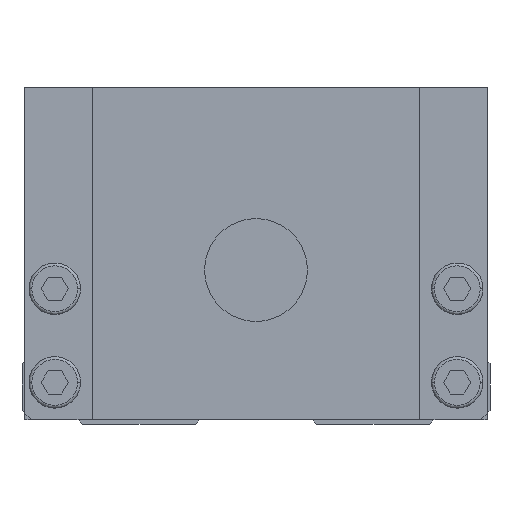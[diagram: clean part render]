
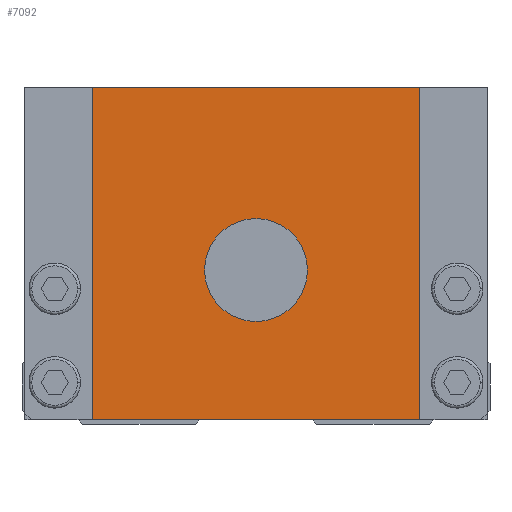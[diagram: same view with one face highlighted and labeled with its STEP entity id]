
A CAD part, front view. The second image highlights one B-rep face of the part: STEP entity #7092.
In plain terms, the highlighted planar face has unit normal (0, -1, 0).
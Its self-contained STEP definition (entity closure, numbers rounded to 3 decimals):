
#3978=VERTEX_POINT('',#10483);
#4380=EDGE_CURVE('',#6774,#3978,#10926,.T.);
#5794=EDGE_CURVE('',#9162,#3978,#12499,.T.);
#6168=EDGE_CURVE('',#9534,#6812,#12918,.T.);
#6774=VERTEX_POINT('',#13598);
#6812=VERTEX_POINT('',#13638);
#6984=VERTEX_POINT('',#13832);
#7024=EDGE_CURVE('',#6812,#9534,#13872,.T.);
#7092=ADVANCED_FACE('',(#13950,#13951),#13952,.F.);
#7696=EDGE_CURVE('',#6774,#6984,#14618,.T.);
#8132=EDGE_CURVE('',#6984,#9162,#15100,.T.);
#9162=VERTEX_POINT('',#16241);
#9534=VERTEX_POINT('',#16655);
#10483=CARTESIAN_POINT('',(-17.5,0.0,0.5));
#10926=LINE('',#18699,#18700);
#12499=LINE('',#20995,#20996);
#12918=CIRCLE('',#21578,5.5);
#13598=CARTESIAN_POINT('',(-17.5,0.0,36.0));
#13638=CARTESIAN_POINT('',(-5.5,0.0,16.5));
#13832=CARTESIAN_POINT('',(17.5,0.0,36.0));
#13872=CIRCLE('',#22881,5.5);
#13950=FACE_BOUND('',#22982,.T.);
#13951=FACE_OUTER_BOUND('',#22983,.T.);
#13952=PLANE('',#22984);
#14618=LINE('',#23891,#23892);
#15100=LINE('',#24581,#24582);
#16241=CARTESIAN_POINT('',(17.5,0.0,0.5));
#16655=CARTESIAN_POINT('',(5.5,0.0,16.5));
#18699=CARTESIAN_POINT('',(-17.5,0.0,18.25));
#18700=VECTOR('',#28514,1.0);
#20995=CARTESIAN_POINT('',(0.0,0.0,0.5));
#20996=VECTOR('',#30368,1.0);
#21578=AXIS2_PLACEMENT_3D('',#30876,#30877,#30878);
#22881=AXIS2_PLACEMENT_3D('',#31984,#31985,#31986);
#22982=EDGE_LOOP('',(#32089,#32090));
#22983=EDGE_LOOP('',(#32091,#32092,#32093,#32094));
#22984=AXIS2_PLACEMENT_3D('',#32095,#32096,#32097);
#23891=CARTESIAN_POINT('',(0.0,0.0,36.0));
#23892=VECTOR('',#32772,1.0);
#24581=CARTESIAN_POINT('',(17.5,0.0,18.25));
#24582=VECTOR('',#33338,1.0);
#28514=DIRECTION('',(0.0,0.0,-1.0));
#30368=DIRECTION('',(-1.0,0.0,0.0));
#30876=CARTESIAN_POINT('',(0.0,0.0,16.5));
#30877=DIRECTION('',(-0.0,1.0,0.0));
#30878=DIRECTION('',(1.0,0.0,0.0));
#31984=CARTESIAN_POINT('',(0.0,0.0,16.5));
#31985=DIRECTION('',(-0.0,1.0,0.0));
#31986=DIRECTION('',(1.0,0.0,0.0));
#32089=ORIENTED_EDGE('',*,*,#6168,.T.);
#32090=ORIENTED_EDGE('',*,*,#7024,.T.);
#32091=ORIENTED_EDGE('',*,*,#4380,.T.);
#32092=ORIENTED_EDGE('',*,*,#5794,.F.);
#32093=ORIENTED_EDGE('',*,*,#8132,.F.);
#32094=ORIENTED_EDGE('',*,*,#7696,.F.);
#32095=CARTESIAN_POINT('',(0.0,0.0,18.25));
#32096=DIRECTION('',(0.0,1.0,0.0));
#32097=DIRECTION('',(0.0,0.0,1.0));
#32772=DIRECTION('',(1.0,0.0,0.0));
#33338=DIRECTION('',(0.0,0.0,-1.0));
